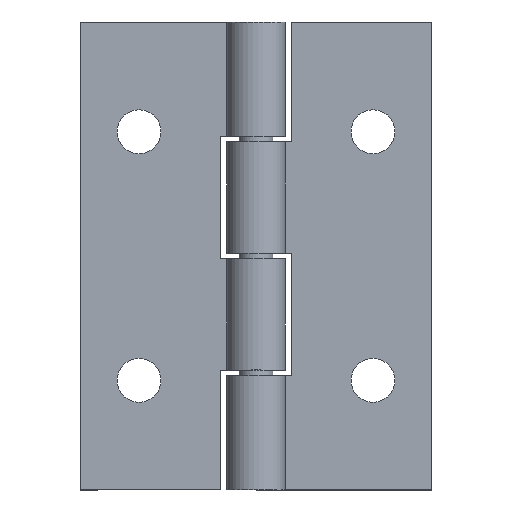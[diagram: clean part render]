
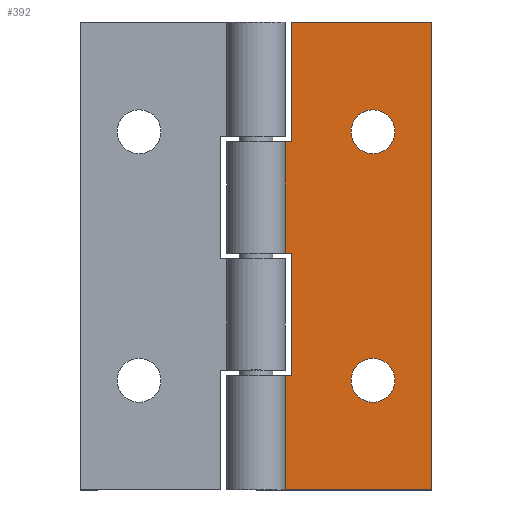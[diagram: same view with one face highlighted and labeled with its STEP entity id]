
A CAD part, top view. The second image highlights one B-rep face of the part: STEP entity #392.
In plain terms, the highlighted planar face has unit normal (0, 0, 1).
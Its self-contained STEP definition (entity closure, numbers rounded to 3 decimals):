
#43=CIRCLE('',#443,0.75);
#44=CIRCLE('',#444,0.75);
#63=ORIENTED_EDGE('',*,*,#163,.F.);
#64=ORIENTED_EDGE('',*,*,#164,.F.);
#65=ORIENTED_EDGE('',*,*,#165,.F.);
#66=ORIENTED_EDGE('',*,*,#166,.F.);
#67=ORIENTED_EDGE('',*,*,#167,.F.);
#68=ORIENTED_EDGE('',*,*,#168,.F.);
#69=ORIENTED_EDGE('',*,*,#169,.F.);
#70=ORIENTED_EDGE('',*,*,#170,.F.);
#71=ORIENTED_EDGE('',*,*,#171,.F.);
#72=ORIENTED_EDGE('',*,*,#172,.F.);
#73=ORIENTED_EDGE('',*,*,#173,.T.);
#74=ORIENTED_EDGE('',*,*,#174,.T.);
#163=EDGE_CURVE('',#213,#213,#43,.T.);
#164=EDGE_CURVE('',#214,#214,#44,.T.);
#165=EDGE_CURVE('',#215,#216,#249,.T.);
#166=EDGE_CURVE('',#217,#215,#250,.T.);
#167=EDGE_CURVE('',#218,#217,#251,.T.);
#168=EDGE_CURVE('',#219,#218,#252,.T.);
#169=EDGE_CURVE('',#220,#219,#253,.T.);
#170=EDGE_CURVE('',#221,#220,#254,.T.);
#171=EDGE_CURVE('',#222,#221,#255,.T.);
#172=EDGE_CURVE('',#223,#222,#256,.T.);
#173=EDGE_CURVE('',#223,#224,#257,.T.);
#174=EDGE_CURVE('',#224,#216,#258,.T.);
#213=VERTEX_POINT('',#615);
#214=VERTEX_POINT('',#617);
#215=VERTEX_POINT('',#619);
#216=VERTEX_POINT('',#620);
#217=VERTEX_POINT('',#622);
#218=VERTEX_POINT('',#624);
#219=VERTEX_POINT('',#626);
#220=VERTEX_POINT('',#628);
#221=VERTEX_POINT('',#630);
#222=VERTEX_POINT('',#632);
#223=VERTEX_POINT('',#634);
#224=VERTEX_POINT('',#636);
#249=LINE('',#618,#283);
#250=LINE('',#621,#284);
#251=LINE('',#623,#285);
#252=LINE('',#625,#286);
#253=LINE('',#627,#287);
#254=LINE('',#629,#288);
#255=LINE('',#631,#289);
#256=LINE('',#633,#290);
#257=LINE('',#635,#291);
#258=LINE('',#637,#292);
#283=VECTOR('',#497,1000.);
#284=VECTOR('',#498,1000.);
#285=VECTOR('',#499,1000.);
#286=VECTOR('',#500,1000.);
#287=VECTOR('',#501,1000.);
#288=VECTOR('',#502,1000.);
#289=VECTOR('',#503,1000.);
#290=VECTOR('',#504,1000.);
#291=VECTOR('',#505,1000.);
#292=VECTOR('',#506,1000.);
#314=EDGE_LOOP('',(#63));
#315=EDGE_LOOP('',(#64));
#316=EDGE_LOOP('',(#65,#66,#67,#68,#69,#70,#71,#72,#73,#74));
#346=FACE_BOUND('',#314,.T.);
#347=FACE_BOUND('',#315,.T.);
#348=FACE_BOUND('',#316,.T.);
#378=PLANE('',#442);
#392=ADVANCED_FACE('',(#346,#347,#348),#378,.F.);
#442=AXIS2_PLACEMENT_3D('',#613,#491,#492);
#443=AXIS2_PLACEMENT_3D('',#614,#493,#494);
#444=AXIS2_PLACEMENT_3D('',#616,#495,#496);
#491=DIRECTION('',(0.,0.,-1.));
#492=DIRECTION('',(-1.,0.,0.));
#493=DIRECTION('',(0.,0.,1.));
#494=DIRECTION('',(1.,0.,0.));
#495=DIRECTION('',(0.,0.,1.));
#496=DIRECTION('',(1.,0.,0.));
#497=DIRECTION('',(0.,1.,0.));
#498=DIRECTION('',(1.,0.,0.));
#499=DIRECTION('',(0.,1.,0.));
#500=DIRECTION('',(-1.,0.,0.));
#501=DIRECTION('',(0.,1.,0.));
#502=DIRECTION('',(1.,0.,0.));
#503=DIRECTION('',(0.,1.,0.));
#504=DIRECTION('',(-1.,0.,0.));
#505=DIRECTION('',(0.,1.,0.));
#506=DIRECTION('',(-1.,0.,0.));
#613=CARTESIAN_POINT('',(0.,0.,0.4));
#614=CARTESIAN_POINT('',(-2.,3.75,0.4));
#615=CARTESIAN_POINT('',(-1.25,3.75,0.4));
#616=CARTESIAN_POINT('',(-2.,12.25,0.4));
#617=CARTESIAN_POINT('',(-1.25,12.25,0.4));
#618=CARTESIAN_POINT('',(-4.8,0.,0.4));
#619=CARTESIAN_POINT('',(-4.8,11.9,0.4));
#620=CARTESIAN_POINT('',(-4.8,16.,0.4));
#621=CARTESIAN_POINT('',(0.,11.9,0.4));
#622=CARTESIAN_POINT('',(-6.,11.9,0.4));
#623=CARTESIAN_POINT('',(-6.,0.,0.4));
#624=CARTESIAN_POINT('',(-6.,8.1,0.4));
#625=CARTESIAN_POINT('',(0.,8.1,0.4));
#626=CARTESIAN_POINT('',(-4.8,8.1,0.4));
#627=CARTESIAN_POINT('',(-4.8,0.,0.4));
#628=CARTESIAN_POINT('',(-4.8,3.9,0.4));
#629=CARTESIAN_POINT('',(0.,3.9,0.4));
#630=CARTESIAN_POINT('',(-6.,3.9,0.4));
#631=CARTESIAN_POINT('',(-6.,0.,0.4));
#632=CARTESIAN_POINT('',(-6.,0.,0.4));
#633=CARTESIAN_POINT('',(0.,0.,0.4));
#634=CARTESIAN_POINT('',(0.,0.,0.4));
#635=CARTESIAN_POINT('',(0.,0.,0.4));
#636=CARTESIAN_POINT('',(0.,16.,0.4));
#637=CARTESIAN_POINT('',(0.,16.,0.4));
